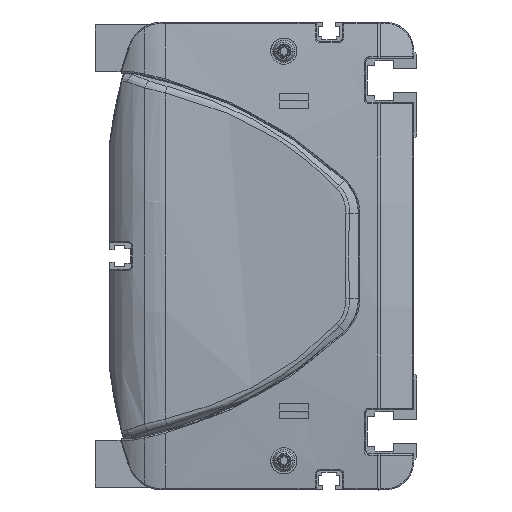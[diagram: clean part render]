
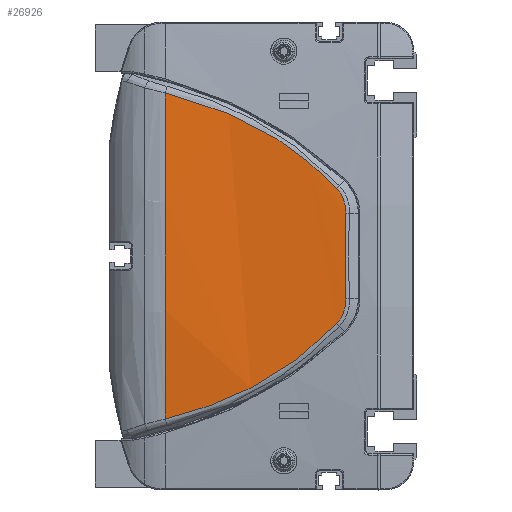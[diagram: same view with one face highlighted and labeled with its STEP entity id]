
A CAD part, left-side view. The second image highlights one B-rep face of the part: STEP entity #26926.
In plain terms, the highlighted cylindrical face has radius 600 mm (diameter 1200 mm), a partial arc.
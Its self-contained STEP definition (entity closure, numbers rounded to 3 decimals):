
#7489=CARTESIAN_POINT('',(-12.406,86.,55.736));
#7490=CARTESIAN_POINT('',(-12.529,80.495,54.41));
#7491=CARTESIAN_POINT('',(-12.828,69.636,51.114));
#7492=CARTESIAN_POINT('',(-13.389,54.079,44.179));
#7493=CARTESIAN_POINT('',(-14.01,39.709,34.979));
#7494=CARTESIAN_POINT('',(-14.395,31.353,27.243));
#7495=CARTESIAN_POINT('',(-14.555,27.451,23.113));
#7497=CARTESIAN_POINT('',(-14.555,27.451,23.113));
#7498=CARTESIAN_POINT('',(-14.598,26.394,21.994));
#7499=CARTESIAN_POINT('',(-14.695,24.746,19.315));
#7500=CARTESIAN_POINT('',(-14.783,24.276,16.208));
#7501=CARTESIAN_POINT('',(-14.821,24.351,14.67));
#7503=CARTESIAN_POINT('',(-14.821,24.351,14.67));
#7504=CARTESIAN_POINT('',(-14.9,24.51,11.413));
#7505=CARTESIAN_POINT('',(-15.007,24.721,4.895));
#7506=CARTESIAN_POINT('',(-15.007,24.721,
-4.895));
#7507=CARTESIAN_POINT('',(-14.9,24.51,
-11.413));
#7508=CARTESIAN_POINT('',(-14.821,24.351,
-14.67));
#7510=CARTESIAN_POINT('',(-14.821,24.351,
-14.67));
#7511=CARTESIAN_POINT('',(-14.783,24.276,
-16.208));
#7512=CARTESIAN_POINT('',(-14.695,24.746,
-19.315));
#7513=CARTESIAN_POINT('',(-14.598,26.394,
-21.995));
#7514=CARTESIAN_POINT('',(-14.555,27.451,
-23.113));
#7516=CARTESIAN_POINT('',(-14.555,27.451,
-23.113));
#7517=CARTESIAN_POINT('',(-14.395,31.353,
-27.243));
#7518=CARTESIAN_POINT('',(-14.01,39.709,
-34.979));
#7519=CARTESIAN_POINT('',(-13.389,54.079,
-44.179));
#7520=CARTESIAN_POINT('',(-12.828,69.636,
-51.114));
#7521=CARTESIAN_POINT('',(-12.529,80.495,
-54.41));
#7522=CARTESIAN_POINT('',(-12.406,86.,
-55.736));
#7524=CARTESIAN_POINT('',(585.,86.,0.));
#7525=DIRECTION('',(0.,1.,0.));
#7526=DIRECTION('',(-0.996,0.,-0.093));
#7527=AXIS2_PLACEMENT_3D('',#7524,#7525,#7526);
#7540=CARTESIAN_POINT('',(-12.406,86.,55.736));
#13171=VERTEX_POINT('',#7540);
#13172=CARTESIAN_POINT('',(-12.406,86.,
-55.736));
#13173=VERTEX_POINT('',#13172);
#13223=VERTEX_POINT('',#7495);
#13224=VERTEX_POINT('',#7501);
#13225=VERTEX_POINT('',#7508);
#13226=VERTEX_POINT('',#7514);
#26908=CARTESIAN_POINT('',(585.,87.45,0.));
#26909=DIRECTION('',(0.,-1.,0.));
#26910=DIRECTION('',(0.,0.,-1.));
#26911=AXIS2_PLACEMENT_3D('',#26908,#26909,#26910);
#26912=CYLINDRICAL_SURFACE('',#26911,600.);
#26914=ORIENTED_EDGE('',*,*,#26913,.T.);
#26916=ORIENTED_EDGE('',*,*,#26915,.T.);
#26917=ORIENTED_EDGE('',*,*,#26898,.T.);
#26919=ORIENTED_EDGE('',*,*,#26918,.T.);
#26921=ORIENTED_EDGE('',*,*,#26920,.T.);
#26923=ORIENTED_EDGE('',*,*,#26922,.T.);
#26924=EDGE_LOOP('',(#26914,#26916,#26917,#26919,#26921,#26923));
#26925=FACE_OUTER_BOUND('',#26924,.F.);
#26926=ADVANCED_FACE('',(#26925),#26912,.T.);
#7496=B_SPLINE_CURVE_WITH_KNOTS('',3,(#7489,#7490,#7491,#7492,#7493,#7494,
#7495),.UNSPECIFIED.,.F.,.F.,(4,1,1,1,4),(0.,0.25,0.5,0.75,1.),
.UNSPECIFIED.);
#7502=B_SPLINE_CURVE_WITH_KNOTS('',3,(#7497,#7498,#7499,#7500,#7501),
.UNSPECIFIED.,.F.,.F.,(4,1,4),(0.,0.5,1.),.UNSPECIFIED.);
#7509=B_SPLINE_CURVE_WITH_KNOTS('',3,(#7503,#7504,#7505,#7506,#7507,#7508),
.UNSPECIFIED.,.F.,.F.,(4,1,1,4),(0.,0.333,0.667,1.),
.UNSPECIFIED.);
#7515=B_SPLINE_CURVE_WITH_KNOTS('',3,(#7510,#7511,#7512,#7513,#7514),
.UNSPECIFIED.,.F.,.F.,(4,1,4),(0.,0.5,1.),.UNSPECIFIED.);
#7523=B_SPLINE_CURVE_WITH_KNOTS('',3,(#7516,#7517,#7518,#7519,#7520,#7521,
#7522),.UNSPECIFIED.,.F.,.F.,(4,1,1,1,4),(0.,0.25,0.5,0.75,1.),
.UNSPECIFIED.);
#7528=CIRCLE('',#7527,600.);
#26898=EDGE_CURVE('',#13224,#13225,#7509,.T.);
#26913=EDGE_CURVE('',#13171,#13223,#7496,.T.);
#26915=EDGE_CURVE('',#13223,#13224,#7502,.T.);
#26918=EDGE_CURVE('',#13225,#13226,#7515,.T.);
#26920=EDGE_CURVE('',#13226,#13173,#7523,.T.);
#26922=EDGE_CURVE('',#13173,#13171,#7528,.T.);
